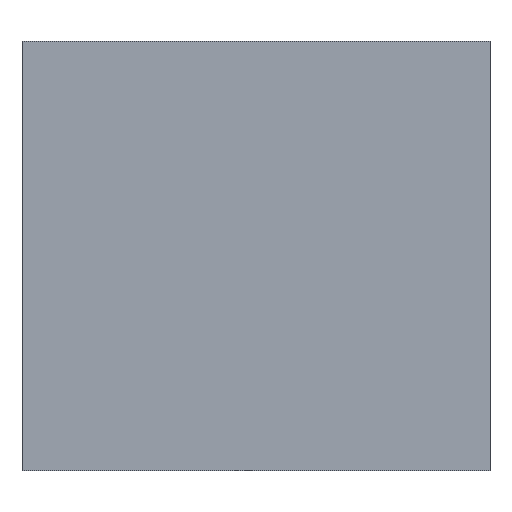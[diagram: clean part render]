
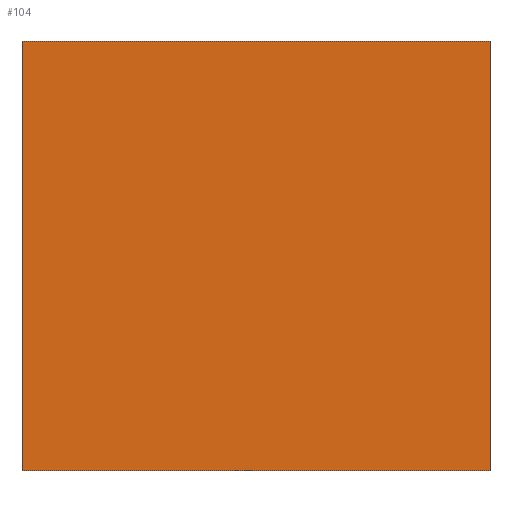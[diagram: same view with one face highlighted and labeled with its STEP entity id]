
A CAD part, left-side view. The second image highlights one B-rep face of the part: STEP entity #104.
In plain terms, the highlighted planar face has unit normal (-1, 0, 0).
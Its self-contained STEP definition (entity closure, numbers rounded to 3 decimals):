
#18=FACE_OUTER_BOUND('',#24,.T.);
#24=EDGE_LOOP('',(#83,#84,#85,#86));
#29=LINE('',#161,#41);
#33=LINE('',#170,#45);
#35=LINE('',#173,#47);
#37=LINE('',#176,#49);
#41=VECTOR('',#133,10.);
#45=VECTOR('',#139,10.);
#47=VECTOR('',#143,10.);
#49=VECTOR('',#147,10.);
#53=VERTEX_POINT('',#158);
#54=VERTEX_POINT('',#160);
#57=VERTEX_POINT('',#167);
#58=VERTEX_POINT('',#169);
#61=EDGE_CURVE('',#53,#54,#29,.T.);
#65=EDGE_CURVE('',#57,#58,#33,.T.);
#67=EDGE_CURVE('',#54,#57,#35,.T.);
#69=EDGE_CURVE('',#53,#58,#37,.T.);
#83=ORIENTED_EDGE('',*,*,#69,.T.);
#84=ORIENTED_EDGE('',*,*,#65,.F.);
#85=ORIENTED_EDGE('',*,*,#67,.F.);
#86=ORIENTED_EDGE('',*,*,#61,.F.);
#98=PLANE('',#124);
#104=ADVANCED_FACE('',(#18),#98,.F.);
#124=AXIS2_PLACEMENT_3D('',#175,#145,#146);
#133=DIRECTION('',(0.,-1.,0.));
#139=DIRECTION('',(0.,1.,0.));
#143=DIRECTION('',(0.,0.,-1.));
#145=DIRECTION('center_axis',(1.,0.,0.));
#146=DIRECTION('ref_axis',(0.,0.,-1.));
#147=DIRECTION('',(0.,0.,-1.));
#158=CARTESIAN_POINT('',(-39.2,18.2,-8.1));
#160=CARTESIAN_POINT('',(-39.2,15.8,-8.1));
#161=CARTESIAN_POINT('',(-39.2,17.,-8.1));
#167=CARTESIAN_POINT('',(-39.2,15.8,-10.3));
#169=CARTESIAN_POINT('',(-39.2,18.2,-10.3));
#170=CARTESIAN_POINT('',(-39.2,17.,-10.3));
#173=CARTESIAN_POINT('',(-39.2,15.8,-9.2));
#175=CARTESIAN_POINT('Origin',(-39.2,17.,-9.2));
#176=CARTESIAN_POINT('',(-39.2,18.2,-9.2));
